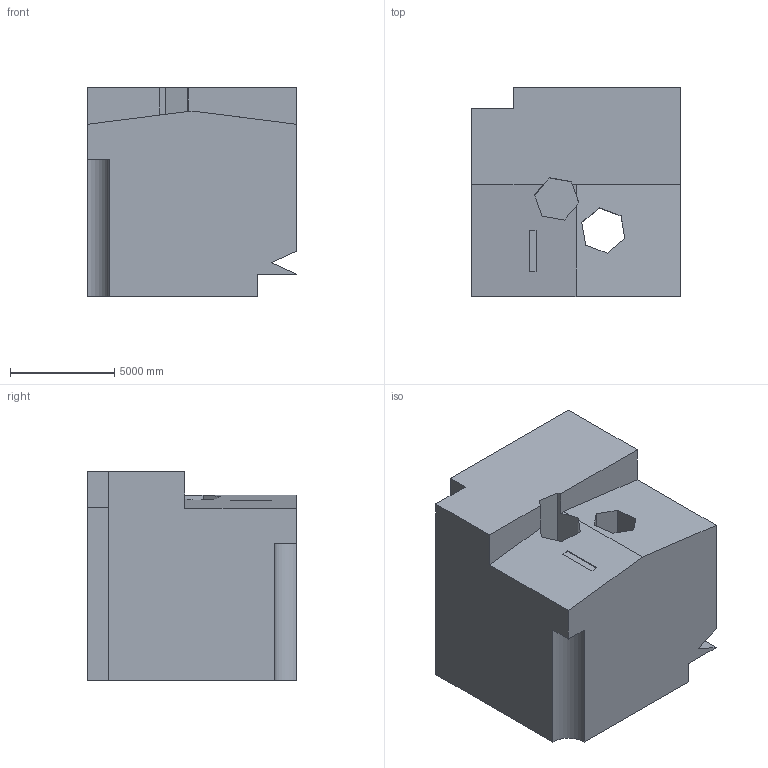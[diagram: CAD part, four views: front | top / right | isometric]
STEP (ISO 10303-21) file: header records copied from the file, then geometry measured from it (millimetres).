
FILE_DESCRIPTION (( 'STEP AP203' ), '1' );
FILE_NAME ('960.STEP', '2022-07-29T14:42:33', ( 'user' ), ( '' ), 'SwSTEP 2.0', 'SolidWorks 2021', '' );
FILE_SCHEMA (( 'CONFIG_CONTROL_DESIGN' ));
Length unit declared in the file: centimetre
Products named in the file (1): 960
Bounding box: 10000 x 10000 x 10000 mm (x, y, z)
Volume: 799154252196.1 mm3; surface area: 703675666.2 mm2
Topology: 1 solids, 1 shells, 44 faces, 123 edges, 82 vertices
Faces by surface type: plane 40, cylinder 4
Entity records: 1476 total; most frequent: CARTESIAN_POINT 250, ORIENTED_EDGE 246, DIRECTION 221, EDGE_CURVE 123, VECTOR 115, LINE 115, VERTEX_POINT 82, AXIS2_PLACEMENT_3D 53
